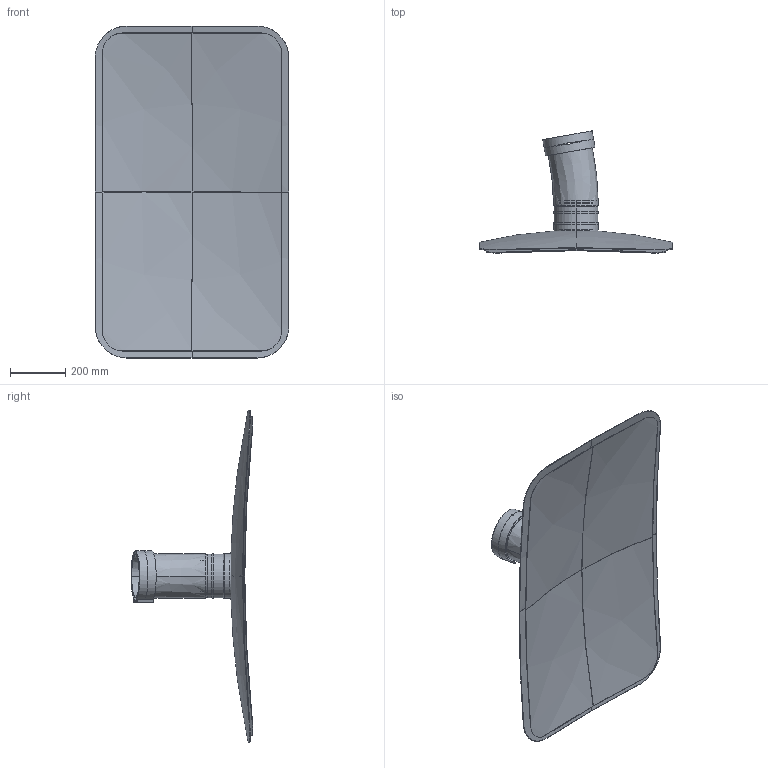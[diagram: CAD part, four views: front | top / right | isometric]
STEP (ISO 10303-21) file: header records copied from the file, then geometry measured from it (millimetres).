
FILE_DESCRIPTION((''),'2;1');
FILE_NAME('117226','2018-10-25T',('Tomas Bellgran'),(''),'CREO PARAMETRIC BY PTC INC, 2016130','CREO PARAMETRIC BY PTC INC, 2016130','');
FILE_SCHEMA(('AUTOMOTIVE_DESIGN { 1 0 10303 214 1 1 1 1 }'));
Length unit declared in the file: millimetre
Products named in the file (6): 116225_LIGHT; 116225; 111230_LIGHT; 100-5823C_LIGHT; 117226_HOSE160; 117226
Assembly tree (5 placements, depth 3):
  117226
    116225
      116225_LIGHT
    111230_LIGHT
    100-5823C_LIGHT
    117226_HOSE160
Bounding box: 700 x 440.42 x 1200 mm (x, y, z)
Volume: 8791945.7 mm3; surface area: 3542511.2 mm2
Topology: 5 solids, 5 shells, 102 faces, 250 edges, 152 vertices
Faces by surface type: bspline 42, cylinder 20, plane 18, cone 16, torus 6
Entity records: 7233 total; most frequent: CARTESIAN_POINT 4044, ORIENTED_EDGE 500, DIRECTION 374, EDGE_CURVE 250, PROPERTY_DEFINITION 163, REPRESENTATION 159, PROPERTY_DEFINITION_REPRESENTATION 159, VERTEX_POINT 152
